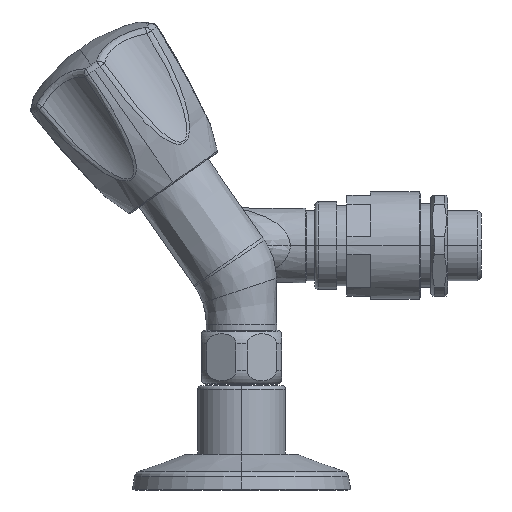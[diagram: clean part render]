
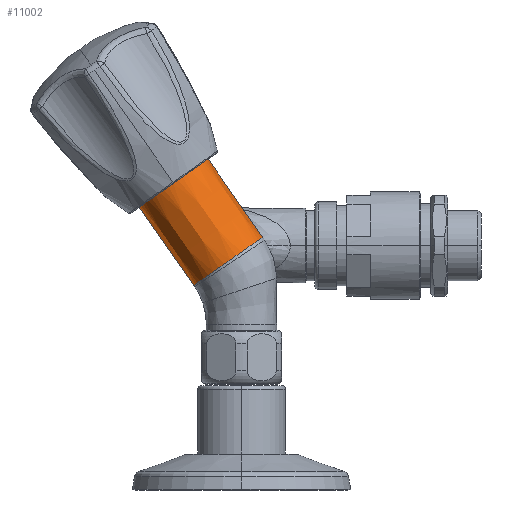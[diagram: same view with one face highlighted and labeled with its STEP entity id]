
A CAD part, left-side view. The second image highlights one B-rep face of the part: STEP entity #11002.
In plain terms, the highlighted free-form (B-spline) face has degree [3, 3] with [12, 4] control points.
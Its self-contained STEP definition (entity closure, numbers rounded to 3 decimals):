
#1349=CARTESIAN_POINT('',(-76.5,23.26,11.425));
#1350=CARTESIAN_POINT('',(-78.37,23.26,11.425));
#1351=CARTESIAN_POINT('',(-82.109,22.56,11.915));
#1352=CARTESIAN_POINT('',(-86.607,19.622,13.972));
#1353=CARTESIAN_POINT('',(-89.103,15.376,16.945));
#1354=CARTESIAN_POINT('',(-89.103,10.664,20.245));
#1355=CARTESIAN_POINT('',(-86.607,6.418,23.218));
#1356=CARTESIAN_POINT('',(-82.109,3.48,25.275));
#1357=CARTESIAN_POINT('',(-78.37,2.781,25.764));
#1358=CARTESIAN_POINT('',(-76.5,2.781,25.764));
#1360=DIRECTION('',(0.,-0.574,-0.819));
#1361=VECTOR('',#1360,28.361);
#1362=CARTESIAN_POINT('',(-76.5,2.781,25.764));
#1363=LINE('',#1362,#1361);
#1375=DIRECTION('',(0.,-0.574,-0.819));
#1376=VECTOR('',#1375,28.361);
#1377=CARTESIAN_POINT('',(-76.5,23.26,11.425));
#1378=LINE('',#1377,#1376);
#1385=CARTESIAN_POINT('',(-76.5,-13.484,
2.531));
#1386=CARTESIAN_POINT('',(-76.97,-13.485,
2.532));
#1387=CARTESIAN_POINT('',(-78.445,-13.418,
2.485));
#1388=CARTESIAN_POINT('',(-80.878,-12.944,
2.153));
#1389=CARTESIAN_POINT('',(-83.577,-11.806,
1.356));
#1390=CARTESIAN_POINT('',(-85.872,-10.173,
0.213));
#1391=CARTESIAN_POINT('',(-87.617,-8.139,
-1.212));
#1392=CARTESIAN_POINT('',(-88.726,-5.821,
-2.835));
#1393=CARTESIAN_POINT('',(-89.118,-3.354,
-4.562));
#1394=CARTESIAN_POINT('',(-88.788,-0.88,
-6.294));
#1395=CARTESIAN_POINT('',(-87.738,1.455,
-7.929));
#1396=CARTESIAN_POINT('',(-86.045,3.52,
-9.375));
#1397=CARTESIAN_POINT('',(-83.791,5.19,
-10.545));
#1398=CARTESIAN_POINT('',(-81.122,6.374,
-11.374));
#1399=CARTESIAN_POINT('',(-78.617,6.906,
-11.746));
#1400=CARTESIAN_POINT('',(-77.056,6.992,
-11.806));
#1401=CARTESIAN_POINT('',(-76.5,6.992,
-11.806));
#7879=VERTEX_POINT('',#1385);
#7880=VERTEX_POINT('',#1401);
#8363=VERTEX_POINT('',#1349);
#8364=VERTEX_POINT('',#1358);
#10944=CARTESIAN_POINT('',(-75.715,3.127,
26.215));
#10945=CARTESIAN_POINT('',(-75.715,-2.513,
18.161));
#10946=CARTESIAN_POINT('',(-75.715,-8.152,10.107));
#10947=CARTESIAN_POINT('',(-75.715,-13.791,
2.054));
#10948=CARTESIAN_POINT('',(-75.977,3.113,
26.224));
#10949=CARTESIAN_POINT('',(-75.977,-2.526,
18.171));
#10950=CARTESIAN_POINT('',(-75.977,-8.166,
10.117));
#10951=CARTESIAN_POINT('',(-75.977,-13.805,
2.063));
#10952=CARTESIAN_POINT('',(-78.108,3.057,
26.263));
#10953=CARTESIAN_POINT('',(-78.108,-2.582,
18.21));
#10954=CARTESIAN_POINT('',(-78.108,-8.221,
10.156));
#10955=CARTESIAN_POINT('',(-78.108,-13.861,
2.102));
#10956=CARTESIAN_POINT('',(-82.109,3.805,
25.74));
#10957=CARTESIAN_POINT('',(-82.109,-1.834,
17.686));
#10958=CARTESIAN_POINT('',(-82.109,-7.473,
9.632));
#10959=CARTESIAN_POINT('',(-82.109,-13.113,
1.578));
#10960=CARTESIAN_POINT('',(-86.607,6.743,
23.682));
#10961=CARTESIAN_POINT('',(-86.607,1.104,
15.629));
#10962=CARTESIAN_POINT('',(-86.607,-4.535,
7.575));
#10963=CARTESIAN_POINT('',(-86.607,-10.174,
-0.479));
#10964=CARTESIAN_POINT('',(-89.103,10.989,
20.709));
#10965=CARTESIAN_POINT('',(-89.103,5.35,
12.656));
#10966=CARTESIAN_POINT('',(-89.103,-0.289,
4.602));
#10967=CARTESIAN_POINT('',(-89.103,-5.929,
-3.452));
#10968=CARTESIAN_POINT('',(-89.103,15.702,
17.41));
#10969=CARTESIAN_POINT('',(-89.103,10.063,
9.356));
#10970=CARTESIAN_POINT('',(-89.103,4.423,
1.302));
#10971=CARTESIAN_POINT('',(-89.103,-1.216,
-6.752));
#10972=CARTESIAN_POINT('',(-86.607,19.948,
14.437));
#10973=CARTESIAN_POINT('',(-86.607,14.308,
6.383));
#10974=CARTESIAN_POINT('',(-86.607,8.669,
-1.671));
#10975=CARTESIAN_POINT('',(-86.607,3.03,
-9.725));
#10976=CARTESIAN_POINT('',(-82.109,22.886,
12.379));
#10977=CARTESIAN_POINT('',(-82.109,17.247,
4.325));
#10978=CARTESIAN_POINT('',(-82.109,11.607,
-3.728));
#10979=CARTESIAN_POINT('',(-82.109,5.968,
-11.782));
#10980=CARTESIAN_POINT('',(-78.108,23.634,
11.855));
#10981=CARTESIAN_POINT('',(-78.108,17.995,
3.802));
#10982=CARTESIAN_POINT('',(-78.108,12.355,
-4.252));
#10983=CARTESIAN_POINT('',(-78.108,6.716,
-12.306));
#10984=CARTESIAN_POINT('',(-75.977,23.578,
11.894));
#10985=CARTESIAN_POINT('',(-75.977,17.939,
3.841));
#10986=CARTESIAN_POINT('',(-75.977,12.3,
-4.213));
#10987=CARTESIAN_POINT('',(-75.977,6.66,
-12.267));
#10988=CARTESIAN_POINT('',(-75.715,23.564,
11.904));
#10989=CARTESIAN_POINT('',(-75.715,17.925,
3.85));
#10990=CARTESIAN_POINT('',(-75.715,12.286,
-4.203));
#10991=CARTESIAN_POINT('',(-75.715,6.647,
-12.257));
#10992=B_SPLINE_SURFACE_WITH_KNOTS('',3,3,((#10944,#10945,#10946,#10947),
(#10948,#10949,#10950,#10951),(#10952,#10953,#10954,#10955),(#10956,#10957,
#10958,#10959),(#10960,#10961,#10962,#10963),(#10964,#10965,#10966,#10967),(
#10968,#10969,#10970,#10971),(#10972,#10973,#10974,#10975),(#10976,#10977,
#10978,#10979),(#10980,#10981,#10982,#10983),(#10984,#10985,#10986,#10987),(
#10988,#10989,#10990,#10991)),.UNSPECIFIED.,.F.,.F.,.F.,(4,1,1,1,1,1,1,1,1,4),
(4,4),(-0.01,0.,0.071,0.143,0.214,
0.286,0.357,0.429,0.5,0.51),(
0.086,1.018),.UNSPECIFIED.);
#10993=ORIENTED_EDGE('',*,*,#9683,.T.);
#10995=ORIENTED_EDGE('',*,*,#10994,.T.);
#10997=ORIENTED_EDGE('',*,*,#10996,.T.);
#10999=ORIENTED_EDGE('',*,*,#10998,.F.);
#11000=EDGE_LOOP('',(#10993,#10995,#10997,#10999));
#11001=FACE_OUTER_BOUND('',#11000,.F.);
#1359=B_SPLINE_CURVE_WITH_KNOTS('',3,(#1349,#1350,#1351,#1352,#1353,#1354,#1355,
#1356,#1357,#1358),.UNSPECIFIED.,.F.,.F.,(4,1,1,1,1,1,1,4),(0.,
0.143,0.286,0.429,0.571,
0.714,0.857,1.),.UNSPECIFIED.);
#1402=B_SPLINE_CURVE_WITH_KNOTS('',3,(#1385,#1386,#1387,#1388,#1389,#1390,#1391,
#1392,#1393,#1394,#1395,#1396,#1397,#1398,#1399,#1400,#1401),.UNSPECIFIED.,.F.,
.F.,(4,1,1,1,1,1,1,1,1,1,1,1,1,1,4),(0.,0.036,0.113,
0.19,0.266,0.343,0.42,
0.497,0.574,0.65,0.727,
0.804,0.881,0.957,1.),.UNSPECIFIED.);
#9683=EDGE_CURVE('',#8363,#8364,#1359,.T.);
#10994=EDGE_CURVE('',#8364,#7879,#1363,.T.);
#10996=EDGE_CURVE('',#7879,#7880,#1402,.T.);
#10998=EDGE_CURVE('',#8363,#7880,#1378,.T.);
#11002=ADVANCED_FACE('',(#11001),#10992,.T.);
